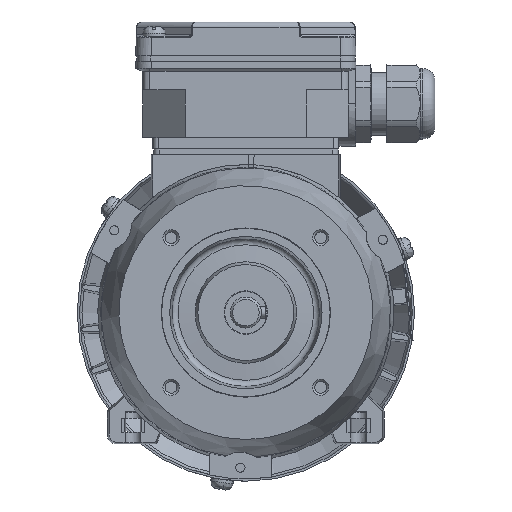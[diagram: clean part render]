
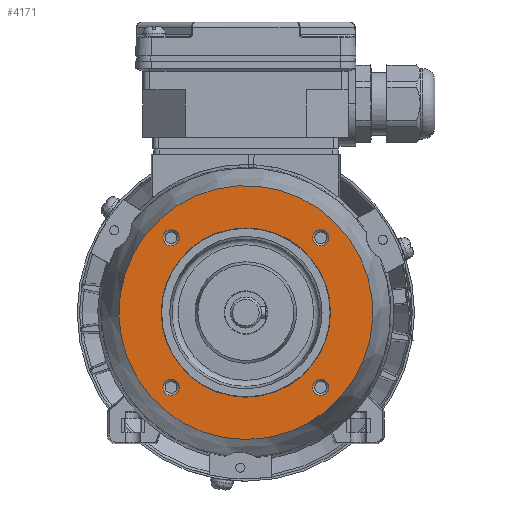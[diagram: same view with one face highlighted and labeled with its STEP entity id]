
A CAD part, left-side view. The second image highlights one B-rep face of the part: STEP entity #4171.
In plain terms, the highlighted planar face has unit normal (-1, 0, 0) as drawn and (0, -1, 0) by its records, which use the part's own axes.
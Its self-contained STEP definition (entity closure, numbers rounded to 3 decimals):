
#4171 = ADVANCED_FACE( '', ( #8921, #8922, #8923, #8924, #8925, #8926 ), #8927, .T. );
#8921 = FACE_BOUND( '', #19737, .T. );
#8922 = FACE_BOUND( '', #19738, .T. );
#8923 = FACE_BOUND( '', #19739, .T. );
#8924 = FACE_BOUND( '', #19740, .T. );
#8925 = FACE_OUTER_BOUND( '', #19741, .T. );
#8926 = FACE_BOUND( '', #19742, .T. );
#8927 = PLANE( '', #19743 );
#19737 = EDGE_LOOP( '', ( #33849 ) );
#19738 = EDGE_LOOP( '', ( #33850 ) );
#19739 = EDGE_LOOP( '', ( #33851 ) );
#19740 = EDGE_LOOP( '', ( #33852 ) );
#19741 = EDGE_LOOP( '', ( #33853 ) );
#19742 = EDGE_LOOP( '', ( #33854 ) );
#19743 = AXIS2_PLACEMENT_3D( '', #33855, #33856, #33857 );
#33849 = ORIENTED_EDGE( '', *, *, #45291, .T. );
#33850 = ORIENTED_EDGE( '', *, *, #41480, .T. );
#33851 = ORIENTED_EDGE( '', *, *, #45292, .T. );
#33852 = ORIENTED_EDGE( '', *, *, #45293, .T. );
#33853 = ORIENTED_EDGE( '', *, *, #45294, .T. );
#33854 = ORIENTED_EDGE( '', *, *, #40930, .F. );
#33855 = CARTESIAN_POINT( '', ( 0., 2.5, 30. ) );
#33856 = DIRECTION( '', ( 0., -1., 0. ) );
#33857 = DIRECTION( '', ( 0., 0., -1. ) );
#40930 = EDGE_CURVE( '', #47118, #47118, #47119, .T. );
#41480 = EDGE_CURVE( '', #48098, #48098, #48099, .F. );
#45291 = EDGE_CURVE( '', #54062, #54062, #54063, .F. );
#45292 = EDGE_CURVE( '', #54064, #54064, #54065, .F. );
#45293 = EDGE_CURVE( '', #54066, #54066, #54067, .F. );
#45294 = EDGE_CURVE( '', #54068, #54068, #54069, .T. );
#47118 = VERTEX_POINT( '', #56228 );
#47119 = CIRCLE( '', #56229, 30. );
#48098 = VERTEX_POINT( '', #58310 );
#48099 = CIRCLE( '', #58311, 2.867 );
#54062 = VERTEX_POINT( '', #71411 );
#54063 = CIRCLE( '', #71412, 2.867 );
#54064 = VERTEX_POINT( '', #71413 );
#54065 = CIRCLE( '', #71414, 2.867 );
#54066 = VERTEX_POINT( '', #71415 );
#54067 = CIRCLE( '', #71416, 2.867 );
#54068 = VERTEX_POINT( '', #71417 );
#54069 = CIRCLE( '', #71418, 45. );
#56228 = CARTESIAN_POINT( '', ( 0., 2.5, -30. ) );
#56229 = AXIS2_PLACEMENT_3D( '', #75515, #75516, #75517 );
#58310 = CARTESIAN_POINT( '', ( 26.517, 2.5, -29.384 ) );
#58311 = AXIS2_PLACEMENT_3D( '', #76167, #76168, #76169 );
#71411 = CARTESIAN_POINT( '', ( -26.517, 2.5, -29.384 ) );
#71412 = AXIS2_PLACEMENT_3D( '', #80790, #80791, #80792 );
#71413 = CARTESIAN_POINT( '', ( 26.517, 2.5, 23.65 ) );
#71414 = AXIS2_PLACEMENT_3D( '', #80793, #80794, #80795 );
#71415 = CARTESIAN_POINT( '', ( -26.517, 2.5, 23.65 ) );
#71416 = AXIS2_PLACEMENT_3D( '', #80796, #80797, #80798 );
#71417 = CARTESIAN_POINT( '', ( 0., 2.5, -45. ) );
#71418 = AXIS2_PLACEMENT_3D( '', #80799, #80800, #80801 );
#75515 = CARTESIAN_POINT( '', ( 0., 2.5, 0. ) );
#75516 = DIRECTION( '', ( 0., -1., 0. ) );
#75517 = DIRECTION( '', ( 0., 0., -1. ) );
#76167 = CARTESIAN_POINT( '', ( 26.517, 2.5, -26.517 ) );
#76168 = DIRECTION( '', ( 0., -1., 0. ) );
#76169 = DIRECTION( '', ( 0., 0., -1. ) );
#80790 = CARTESIAN_POINT( '', ( -26.517, 2.5, -26.517 ) );
#80791 = DIRECTION( '', ( 0., -1., 0. ) );
#80792 = DIRECTION( '', ( 0., 0., -1. ) );
#80793 = CARTESIAN_POINT( '', ( 26.517, 2.5, 26.517 ) );
#80794 = DIRECTION( '', ( 0., -1., 0. ) );
#80795 = DIRECTION( '', ( 0., 0., -1. ) );
#80796 = CARTESIAN_POINT( '', ( -26.517, 2.5, 26.517 ) );
#80797 = DIRECTION( '', ( 0., -1., 0. ) );
#80798 = DIRECTION( '', ( 0., 0., -1. ) );
#80799 = CARTESIAN_POINT( '', ( 0., 2.5, 0. ) );
#80800 = DIRECTION( '', ( 0., -1., 0. ) );
#80801 = DIRECTION( '', ( 0., 0., -1. ) );
